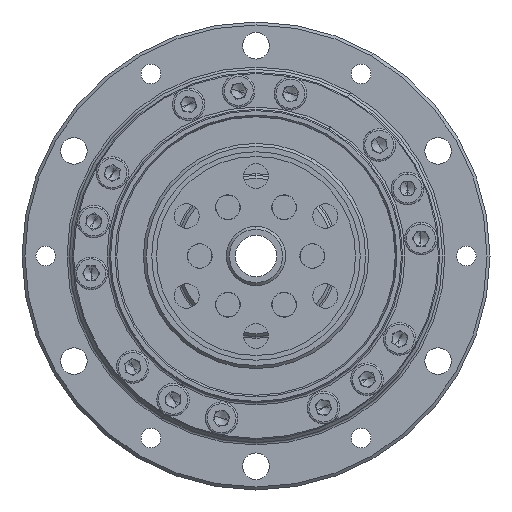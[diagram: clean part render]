
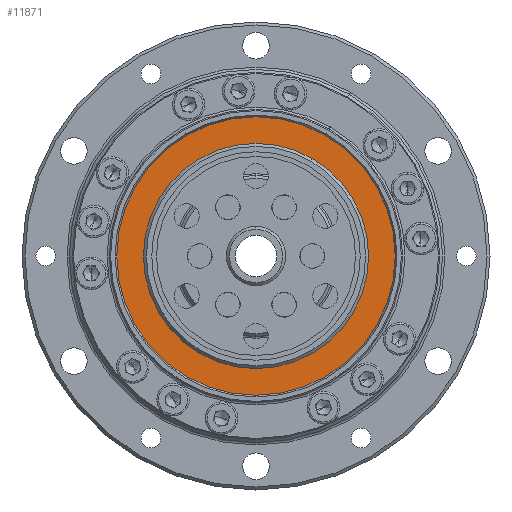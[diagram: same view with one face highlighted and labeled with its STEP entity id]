
A CAD part, left-side view. The second image highlights one B-rep face of the part: STEP entity #11871.
In plain terms, the highlighted planar face has unit normal (-1, 0, 0).
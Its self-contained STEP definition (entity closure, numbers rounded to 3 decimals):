
#104 = VERTEX_POINT ( 'NONE', #3704 ) ;
#1083 = CIRCLE ( 'NONE', #21586, 23.5 ) ;
#1321 = PLANE ( 'NONE',  #12834 ) ;
#1621 = ORIENTED_EDGE ( 'NONE', *, *, #21201, .F. ) ;
#2429 = CIRCLE ( 'NONE', #18529, 19. ) ;
#2657 = CARTESIAN_POINT ( 'NONE',  ( 4.525, 0., 0. ) ) ;
#3378 = EDGE_LOOP ( 'NONE', ( #22768, #14370 ) ) ;
#3704 = CARTESIAN_POINT ( 'NONE',  ( 4.525, 0., -23.5 ) ) ;
#4249 = CARTESIAN_POINT ( 'NONE',  ( 4.525, 0., 0. ) ) ;
#4286 = DIRECTION ( 'NONE',  ( -1., 0., 0. ) ) ;
#4707 = DIRECTION ( 'NONE',  ( 0., 0., 1. ) ) ;
#5336 = AXIS2_PLACEMENT_3D ( 'NONE', #2657, #16776, #4707 ) ;
#6142 = VERTEX_POINT ( 'NONE', #12294 ) ;
#6283 = DIRECTION ( 'NONE',  ( 0., 0., 1. ) ) ;
#7602 = FACE_BOUND ( 'NONE', #23818, .T. ) ;
#10595 = EDGE_CURVE ( 'NONE', #6142, #20388, #2429, .T. ) ;
#10745 = DIRECTION ( 'NONE',  ( -1., 0., 0. ) ) ;
#11362 = CARTESIAN_POINT ( 'NONE',  ( 4.525, 0., 19. ) ) ;
#11461 = DIRECTION ( 'NONE',  ( 1., 0., 0. ) ) ;
#11672 = EDGE_CURVE ( 'NONE', #12364, #104, #21441, .T. ) ;
#11871 = ADVANCED_FACE ( 'NONE', ( #7602, #18328 ), #1321, .F. ) ;
#12001 = AXIS2_PLACEMENT_3D ( 'NONE', #22770, #10745, #24787 ) ;
#12294 = CARTESIAN_POINT ( 'NONE',  ( 4.525, 0., -19. ) ) ;
#12364 = VERTEX_POINT ( 'NONE', #20680 ) ;
#12834 = AXIS2_PLACEMENT_3D ( 'NONE', #19454, #11461, #25476 ) ;
#14175 = ORIENTED_EDGE ( 'NONE', *, *, #10595, .F. ) ;
#14370 = ORIENTED_EDGE ( 'NONE', *, *, #25169, .T. ) ;
#15423 = CIRCLE ( 'NONE', #5336, 19. ) ;
#16370 = CARTESIAN_POINT ( 'NONE',  ( 4.525, 0., 0. ) ) ;
#16776 = DIRECTION ( 'NONE',  ( -1., 0., 0. ) ) ;
#18328 = FACE_OUTER_BOUND ( 'NONE', #3378, .T. ) ;
#18342 = DIRECTION ( 'NONE',  ( -1., 0., 0. ) ) ;
#18379 = DIRECTION ( 'NONE',  ( 0., 0., 1. ) ) ;
#18529 = AXIS2_PLACEMENT_3D ( 'NONE', #4249, #18342, #6283 ) ;
#19454 = CARTESIAN_POINT ( 'NONE',  ( 4.525, 23.5, 0. ) ) ;
#20388 = VERTEX_POINT ( 'NONE', #11362 ) ;
#20680 = CARTESIAN_POINT ( 'NONE',  ( 4.525, 0., 23.5 ) ) ;
#21201 = EDGE_CURVE ( 'NONE', #20388, #6142, #15423, .T. ) ;
#21441 = CIRCLE ( 'NONE', #12001, 23.5 ) ;
#21586 = AXIS2_PLACEMENT_3D ( 'NONE', #16370, #4286, #18379 ) ;
#22768 = ORIENTED_EDGE ( 'NONE', *, *, #11672, .T. ) ;
#22770 = CARTESIAN_POINT ( 'NONE',  ( 4.525, 0., 0. ) ) ;
#23818 = EDGE_LOOP ( 'NONE', ( #1621, #14175 ) ) ;
#24787 = DIRECTION ( 'NONE',  ( 0., 0., 1. ) ) ;
#25169 = EDGE_CURVE ( 'NONE', #104, #12364, #1083, .T. ) ;
#25476 = DIRECTION ( 'NONE',  ( 0., 0., -1. ) ) ;
